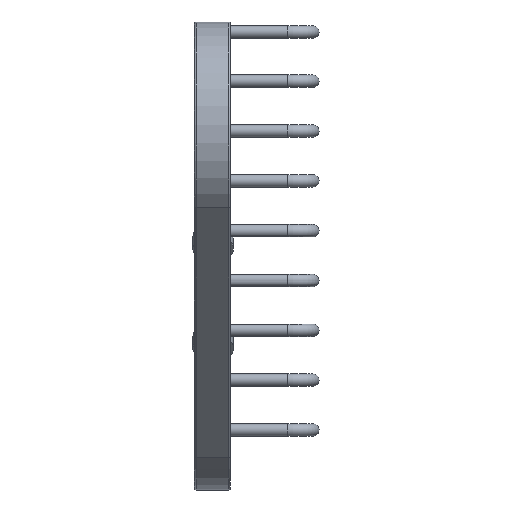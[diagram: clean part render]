
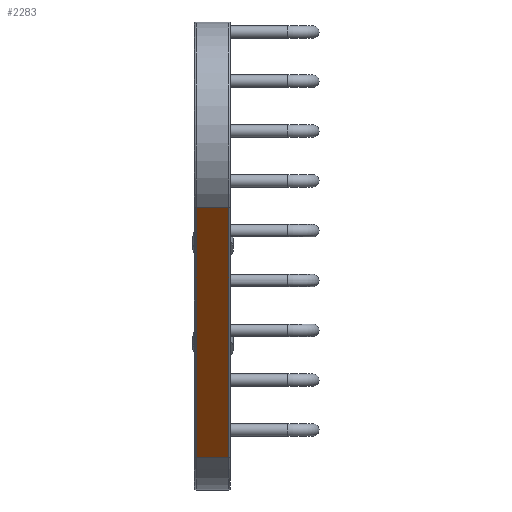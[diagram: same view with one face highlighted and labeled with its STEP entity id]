
A CAD part, left-side view. The second image highlights one B-rep face of the part: STEP entity #2283.
In plain terms, the highlighted planar face has unit normal (-0.71, 0, -0.704).
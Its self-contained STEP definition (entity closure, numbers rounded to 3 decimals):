
#261=FACE_OUTER_BOUND('',#410,.T.);
#410=EDGE_LOOP('',(#2093,#2094,#2095,#2096));
#711=LINE('',#3866,#810);
#755=LINE('',#4138,#854);
#768=LINE('',#4277,#867);
#769=LINE('',#4279,#868);
#810=VECTOR('',#3075,113.011);
#854=VECTOR('',#3377,113.011);
#867=VECTOR('',#3494,10.5);
#868=VECTOR('',#3497,10.5);
#988=VERTEX_POINT('',#3861);
#989=VERTEX_POINT('',#3865);
#1069=VERTEX_POINT('',#4133);
#1070=VERTEX_POINT('',#4137);
#1257=EDGE_CURVE('',#988,#989,#711,.T.);
#1386=EDGE_CURVE('',#1069,#1070,#755,.T.);
#1433=EDGE_CURVE('',#1070,#988,#768,.T.);
#1434=EDGE_CURVE('',#1069,#989,#769,.T.);
#2093=ORIENTED_EDGE('',*,*,#1386,.F.);
#2094=ORIENTED_EDGE('',*,*,#1434,.T.);
#2095=ORIENTED_EDGE('',*,*,#1257,.F.);
#2096=ORIENTED_EDGE('',*,*,#1433,.F.);
#2162=PLANE('',#2666);
#2283=ADVANCED_FACE('',(#261),#2162,.T.);
#2666=AXIS2_PLACEMENT_3D('',#4278,#3495,#3496);
#3075=DIRECTION('',(0.704,0.,-0.71));
#3377=DIRECTION('',(-0.704,0.,0.71));
#3494=DIRECTION('',(0.,-1.,0.));
#3495=DIRECTION('center_axis',(-0.71,0.,-0.704));
#3496=DIRECTION('ref_axis',(-0.704,0.,0.71));
#3497=DIRECTION('',(0.,-1.,0.));
#3861=CARTESIAN_POINT('',(-104.407,0.5,-59.635));
#3865=CARTESIAN_POINT('',(-24.861,0.5,-139.91));
#3866=CARTESIAN_POINT('',(-104.407,0.5,-59.635));
#4133=CARTESIAN_POINT('',(-24.861,11.,-139.91));
#4137=CARTESIAN_POINT('',(-104.407,11.,-59.635));
#4138=CARTESIAN_POINT('',(-24.861,11.,-139.91));
#4277=CARTESIAN_POINT('',(-104.407,11.,-59.635));
#4278=CARTESIAN_POINT('Origin',(0.,0.,-165.));
#4279=CARTESIAN_POINT('',(-24.861,11.,-139.91));
